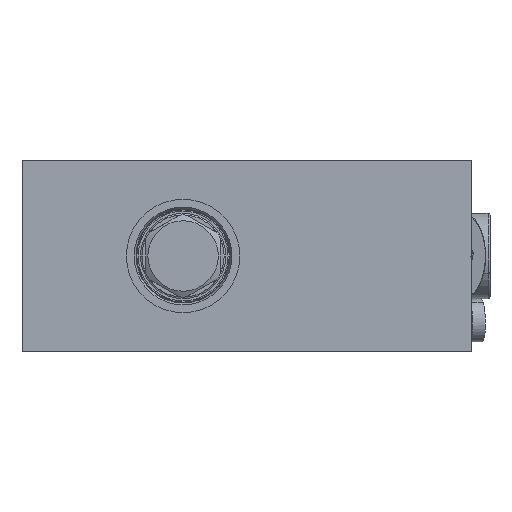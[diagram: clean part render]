
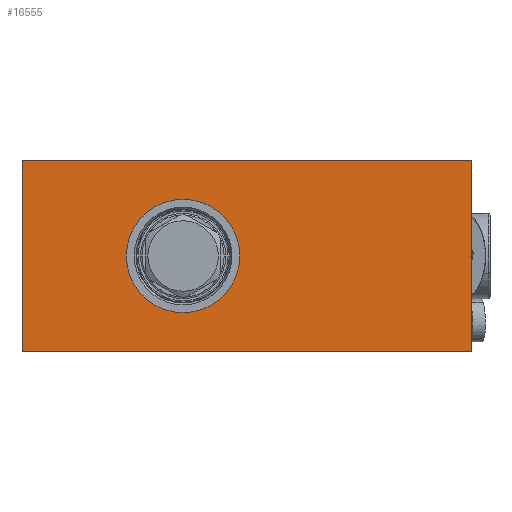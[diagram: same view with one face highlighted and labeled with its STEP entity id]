
A CAD part, left-side view. The second image highlights one B-rep face of the part: STEP entity #16555.
In plain terms, the highlighted planar face has unit normal (-1, 0, 0).
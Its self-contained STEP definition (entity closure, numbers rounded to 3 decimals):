
#180 = LINE ( 'NONE', #12372, #11873 ) ;
#643 = EDGE_CURVE ( 'NONE', #10038, #40369, #31687, .T. ) ;
#897 = CIRCLE ( 'NONE', #22748, 14.5 ) ;
#1345 = VERTEX_POINT ( 'NONE', #12578 ) ;
#1475 = CARTESIAN_POINT ( 'NONE',  ( -49., 57.5, 24.5 ) ) ;
#1792 = ORIENTED_EDGE ( 'NONE', *, *, #34649, .F. ) ;
#2348 = PLANE ( 'NONE',  #27524 ) ;
#2637 = ORIENTED_EDGE ( 'NONE', *, *, #14679, .T. ) ;
#3153 = ORIENTED_EDGE ( 'NONE', *, *, #6753, .F. ) ;
#5442 = DIRECTION ( 'NONE',  ( 0., -1., 0. ) ) ;
#5869 = LINE ( 'NONE', #24432, #13632 ) ;
#6248 = EDGE_CURVE ( 'NONE', #27058, #38026, #897, .T. ) ;
#6612 = VERTEX_POINT ( 'NONE', #33195 ) ;
#6753 = EDGE_CURVE ( 'NONE', #38026, #27058, #28266, .T. ) ;
#7066 = DIRECTION ( 'NONE',  ( 0., -1., 0. ) ) ;
#7965 = CARTESIAN_POINT ( 'NONE',  ( -49., 30.8, 0. ) ) ;
#8328 = FACE_OUTER_BOUND ( 'NONE', #26477, .T. ) ;
#10038 = VERTEX_POINT ( 'NONE', #31084 ) ;
#10485 = VECTOR ( 'NONE', #34140, 1000. ) ;
#11873 = VECTOR ( 'NONE', #32240, 1000. ) ;
#12372 = CARTESIAN_POINT ( 'NONE',  ( -49., 57.5, 24.5 ) ) ;
#12578 = CARTESIAN_POINT ( 'NONE',  ( -49., 57.5, 24.5 ) ) ;
#12645 = CARTESIAN_POINT ( 'NONE',  ( -49., -57.5, 24.5 ) ) ;
#13632 = VECTOR ( 'NONE', #5442, 1000. ) ;
#14504 = LINE ( 'NONE', #27541, #10485 ) ;
#14679 = EDGE_CURVE ( 'NONE', #6612, #10038, #5869, .T. ) ;
#14815 = CARTESIAN_POINT ( 'NONE',  ( -49., 16.3, 0. ) ) ;
#16555 = ADVANCED_FACE ( 'NONE', ( #17932, #8328 ), #2348, .F. ) ;
#17437 = VECTOR ( 'NONE', #18424, 1000. ) ;
#17932 = FACE_BOUND ( 'NONE', #41744, .T. ) ;
#18424 = DIRECTION ( 'NONE',  ( 0., 0., 1. ) ) ;
#19250 = CARTESIAN_POINT ( 'NONE',  ( -49., 1.8, 0. ) ) ;
#22748 = AXIS2_PLACEMENT_3D ( 'NONE', #26725, #32523, #7066 ) ;
#24432 = CARTESIAN_POINT ( 'NONE',  ( -49., 57.5, -24.5 ) ) ;
#24807 = AXIS2_PLACEMENT_3D ( 'NONE', #14815, #34214, #31038 ) ;
#26477 = EDGE_LOOP ( 'NONE', ( #34408, #41382, #1792, #2637 ) ) ;
#26725 = CARTESIAN_POINT ( 'NONE',  ( -49., 16.3, 0. ) ) ;
#26873 = CARTESIAN_POINT ( 'NONE',  ( -49., -57.5, 24.5 ) ) ;
#27058 = VERTEX_POINT ( 'NONE', #19250 ) ;
#27524 = AXIS2_PLACEMENT_3D ( 'NONE', #1475, #34383, #27562 ) ;
#27541 = CARTESIAN_POINT ( 'NONE',  ( -49., 57.5, 24.5 ) ) ;
#27562 = DIRECTION ( 'NONE',  ( 0., 0., -1. ) ) ;
#28266 = CIRCLE ( 'NONE', #24807, 14.5 ) ;
#31038 = DIRECTION ( 'NONE',  ( 0., -1., 0. ) ) ;
#31084 = CARTESIAN_POINT ( 'NONE',  ( -49., -57.5, -24.5 ) ) ;
#31687 = LINE ( 'NONE', #12645, #17437 ) ;
#32240 = DIRECTION ( 'NONE',  ( 0., 0., 1. ) ) ;
#32523 = DIRECTION ( 'NONE',  ( -1., 0., 0. ) ) ;
#33195 = CARTESIAN_POINT ( 'NONE',  ( -49., 57.5, -24.5 ) ) ;
#34140 = DIRECTION ( 'NONE',  ( 0., -1., 0. ) ) ;
#34214 = DIRECTION ( 'NONE',  ( -1., 0., 0. ) ) ;
#34383 = DIRECTION ( 'NONE',  ( 1., 0., 0. ) ) ;
#34408 = ORIENTED_EDGE ( 'NONE', *, *, #643, .T. ) ;
#34649 = EDGE_CURVE ( 'NONE', #6612, #1345, #180, .T. ) ;
#38026 = VERTEX_POINT ( 'NONE', #7965 ) ;
#38900 = EDGE_CURVE ( 'NONE', #1345, #40369, #14504, .T. ) ;
#39431 = ORIENTED_EDGE ( 'NONE', *, *, #6248, .F. ) ;
#40369 = VERTEX_POINT ( 'NONE', #26873 ) ;
#41382 = ORIENTED_EDGE ( 'NONE', *, *, #38900, .F. ) ;
#41744 = EDGE_LOOP ( 'NONE', ( #39431, #3153 ) ) ;
